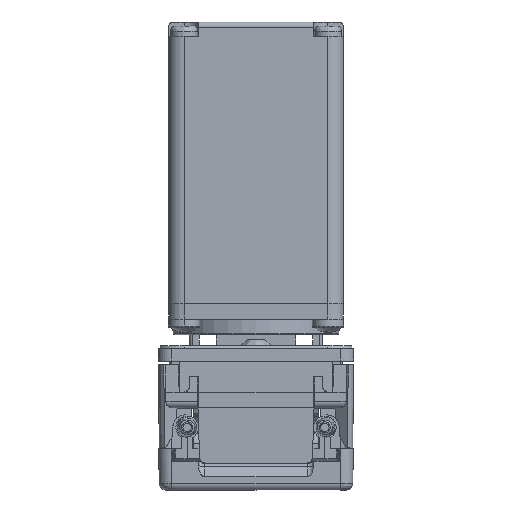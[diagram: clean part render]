
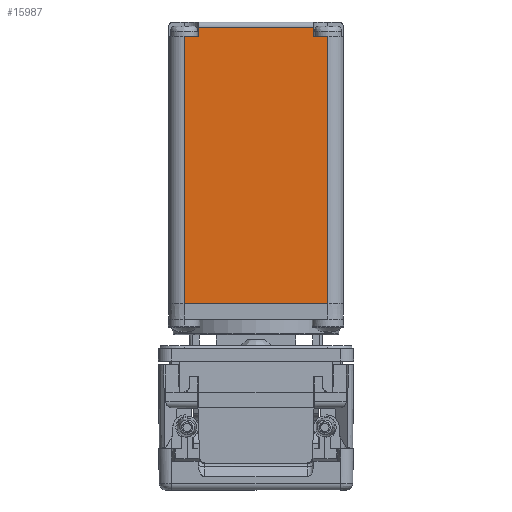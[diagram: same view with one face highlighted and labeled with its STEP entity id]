
A CAD part, front view. The second image highlights one B-rep face of the part: STEP entity #15987.
In plain terms, the highlighted planar face has unit normal (0, 1, 0).
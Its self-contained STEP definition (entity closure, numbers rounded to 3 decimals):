
#803 = VECTOR ( 'NONE', #15455, 1000. ) ;
#943 = FACE_OUTER_BOUND ( 'NONE', #15769, .T. ) ;
#1065 = CARTESIAN_POINT ( 'NONE',  ( -11.5, -14., 45.3 ) ) ;
#1122 = AXIS2_PLACEMENT_3D ( 'NONE', #1065, #16928, #15088 ) ;
#1128 = CARTESIAN_POINT ( 'NONE',  ( -11.5, -14., 43. ) ) ;
#1349 = LINE ( 'NONE', #13405, #14920 ) ;
#1380 = ORIENTED_EDGE ( 'NONE', *, *, #9478, .T. ) ;
#1677 = CARTESIAN_POINT ( 'NONE',  ( -11.5, -14., 0.3 ) ) ;
#1732 = LINE ( 'NONE', #10096, #21630 ) ;
#2838 = ORIENTED_EDGE ( 'NONE', *, *, #4257, .T. ) ;
#3092 = DIRECTION ( 'NONE',  ( 0., 0., -1. ) ) ;
#3104 = LINE ( 'NONE', #16618, #18307 ) ;
#3141 = LINE ( 'NONE', #7197, #803 ) ;
#3210 = CARTESIAN_POINT ( 'NONE',  ( -9.2, -14., 43. ) ) ;
#3955 = VERTEX_POINT ( 'NONE', #1677 ) ;
#4190 = VERTEX_POINT ( 'NONE', #23129 ) ;
#4245 = LINE ( 'NONE', #21934, #8453 ) ;
#4257 = EDGE_CURVE ( 'NONE', #16933, #13442, #4245, .T. ) ;
#4346 = ORIENTED_EDGE ( 'NONE', *, *, #24190, .T. ) ;
#4463 = EDGE_CURVE ( 'NONE', #24590, #4190, #9198, .T. ) ;
#4786 = EDGE_CURVE ( 'NONE', #13442, #24590, #3141, .T. ) ;
#4941 = LINE ( 'NONE', #15434, #22360 ) ;
#5047 = LINE ( 'NONE', #16980, #5097 ) ;
#5097 = VECTOR ( 'NONE', #3092, 1000. ) ;
#5135 = CARTESIAN_POINT ( 'NONE',  ( 9.2, -14., 43. ) ) ;
#5824 = DIRECTION ( 'NONE',  ( 1., 0., 0. ) ) ;
#7197 = CARTESIAN_POINT ( 'NONE',  ( -9.2, -14., 45.3 ) ) ;
#7301 = ORIENTED_EDGE ( 'NONE', *, *, #4786, .T. ) ;
#7623 = CARTESIAN_POINT ( 'NONE',  ( 11.5, -14., 43. ) ) ;
#8453 = VECTOR ( 'NONE', #5824, 1000. ) ;
#9093 = EDGE_CURVE ( 'NONE', #3955, #16933, #3104, .T. ) ;
#9198 = LINE ( 'NONE', #17471, #11698 ) ;
#9394 = VERTEX_POINT ( 'NONE', #7623 ) ;
#9478 = EDGE_CURVE ( 'NONE', #12843, #9394, #1732, .T. ) ;
#10096 = CARTESIAN_POINT ( 'NONE',  ( 11.45, -14., 43. ) ) ;
#10169 = CARTESIAN_POINT ( 'NONE',  ( 11.5, -14., 0.3 ) ) ;
#11274 = ORIENTED_EDGE ( 'NONE', *, *, #19796, .T. ) ;
#11558 = DIRECTION ( 'NONE',  ( 1., 0., 0. ) ) ;
#11698 = VECTOR ( 'NONE', #13410, 1000. ) ;
#11866 = DIRECTION ( 'NONE',  ( -1., 0., 0. ) ) ;
#12317 = VERTEX_POINT ( 'NONE', #10169 ) ;
#12843 = VERTEX_POINT ( 'NONE', #5135 ) ;
#13405 = CARTESIAN_POINT ( 'NONE',  ( 9.2, -14., 45.3 ) ) ;
#13410 = DIRECTION ( 'NONE',  ( 1., 0., 0. ) ) ;
#13442 = VERTEX_POINT ( 'NONE', #3210 ) ;
#14920 = VECTOR ( 'NONE', #21377, 1000. ) ;
#15088 = DIRECTION ( 'NONE',  ( 0., 0., 1. ) ) ;
#15434 = CARTESIAN_POINT ( 'NONE',  ( -11.5, -14., 0.3 ) ) ;
#15455 = DIRECTION ( 'NONE',  ( 0., 0., 1. ) ) ;
#15769 = EDGE_LOOP ( 'NONE', ( #20935, #19662, #1380, #11274, #4346, #18874, #2838, #7301 ) ) ;
#15987 = ADVANCED_FACE ( 'NONE', ( #943 ), #20837, .T. ) ;
#16618 = CARTESIAN_POINT ( 'NONE',  ( -11.5, -14., 45.3 ) ) ;
#16928 = DIRECTION ( 'NONE',  ( 0., 1., 0. ) ) ;
#16933 = VERTEX_POINT ( 'NONE', #1128 ) ;
#16980 = CARTESIAN_POINT ( 'NONE',  ( 11.5, -14., 45.3 ) ) ;
#17471 = CARTESIAN_POINT ( 'NONE',  ( -11.5, -14., 44.5 ) ) ;
#18307 = VECTOR ( 'NONE', #25093, 1000. ) ;
#18874 = ORIENTED_EDGE ( 'NONE', *, *, #9093, .T. ) ;
#19662 = ORIENTED_EDGE ( 'NONE', *, *, #25910, .T. ) ;
#19796 = EDGE_CURVE ( 'NONE', #9394, #12317, #5047, .T. ) ;
#20837 = PLANE ( 'NONE',  #1122 ) ;
#20935 = ORIENTED_EDGE ( 'NONE', *, *, #4463, .T. ) ;
#21377 = DIRECTION ( 'NONE',  ( 0., 0., -1. ) ) ;
#21630 = VECTOR ( 'NONE', #11558, 1000. ) ;
#21934 = CARTESIAN_POINT ( 'NONE',  ( -11.5, -14., 43. ) ) ;
#22360 = VECTOR ( 'NONE', #11866, 1000. ) ;
#23129 = CARTESIAN_POINT ( 'NONE',  ( 9.2, -14., 44.5 ) ) ;
#23744 = CARTESIAN_POINT ( 'NONE',  ( -9.2, -14., 44.5 ) ) ;
#24190 = EDGE_CURVE ( 'NONE', #12317, #3955, #4941, .T. ) ;
#24590 = VERTEX_POINT ( 'NONE', #23744 ) ;
#25093 = DIRECTION ( 'NONE',  ( 0., 0., 1. ) ) ;
#25910 = EDGE_CURVE ( 'NONE', #4190, #12843, #1349, .T. ) ;
